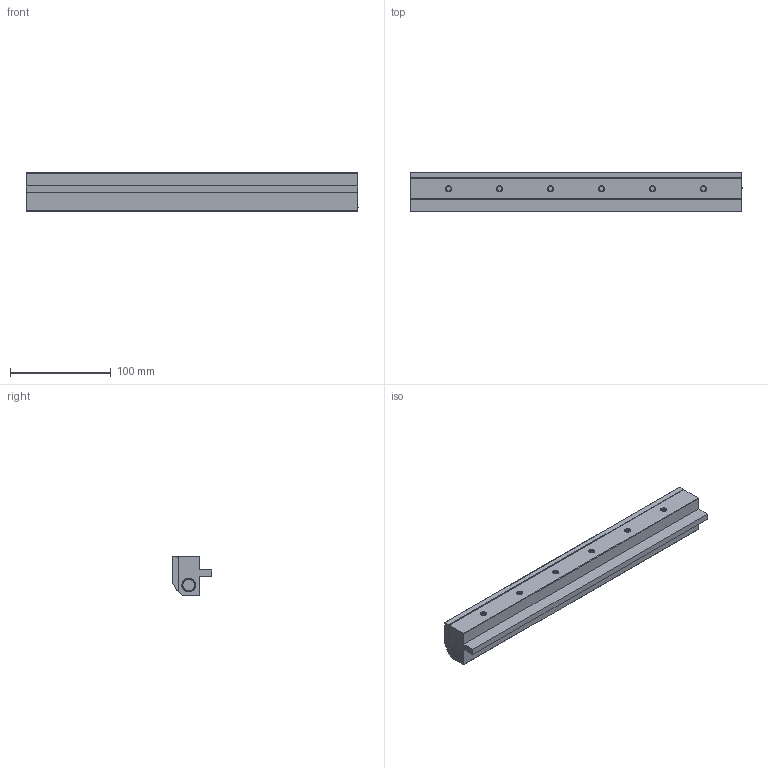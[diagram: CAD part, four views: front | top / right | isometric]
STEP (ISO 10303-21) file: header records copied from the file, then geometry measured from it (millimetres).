
FILE_DESCRIPTION (( 'STEP AP214' ), '1' );
FILE_NAME ('SIMP - RA-2_300.STEP', '2023-07-24T08:49:22', ( '' ), ( '' ), 'SwSTEP 2.0', 'SolidWorks 2021', '' );
FILE_SCHEMA (( 'AUTOMOTIVE_DESIGN' ));
Length unit declared in the file: millimetre
Products named in the file (1): SIMP - RA-2_300
Bounding box: 330 x 39.68 x 38 mm (x, y, z)
Volume: 342176.6 mm3; surface area: 57803.1 mm2
Topology: 1 solids, 78 shells, 1670 faces, 4261 edges, 2835 vertices
Faces by surface type: plane 773, bspline 446, cylinder 380, cone 50, torus 21
Full cylindrical faces by diameter (mm): 5 x72, 11.3 x7
Entity records: 196137 total; most frequent: CARTESIAN_POINT 145049, ORIENTED_EDGE 7926, DIRECTION 5243, EDGE_CURVE 3963, VERTEX_POINT 2650, VECTOR 1969, LINE 1969, EDGE_LOOP 1727
